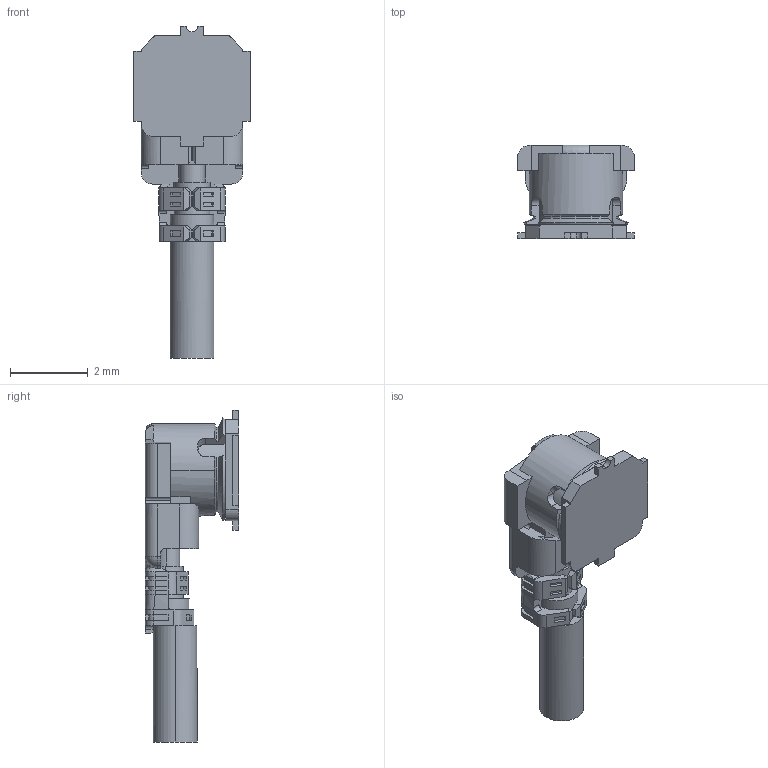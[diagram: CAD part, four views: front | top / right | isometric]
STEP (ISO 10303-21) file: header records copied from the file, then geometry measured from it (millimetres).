
FILE_DESCRIPTION (( 'STEP AP203' ), '1' );
FILE_NAME ('20278-1xxR-13+20441-001E-01C-1.13OD MATING R16R4 STEP ALL.STEP', '2023-11-21T07:01:57', ( '' ), ( '' ), 'SwSTEP 2.0', 'SolidWorks 2023', '' );
FILE_SCHEMA (( 'CONFIG_CONTROL_DESIGN' ));
Length unit declared in the file: millimetre
Products named in the file (1): 20278-1xxR-13+20441-001E-01C-1.13OD MATING R16R4 STEP ALL
Bounding box: 3 x 2.4 x 8.55 mm (x, y, z)
Volume: 21.4 mm3; surface area: 75.2 mm2
Topology: 1 solids, 1 shells, 377 faces, 1040 edges, 670 vertices
Faces by surface type: plane 234, cylinder 87, bspline 35, cone 16, torus 3, sphere 2
Entity records: 13288 total; most frequent: CARTESIAN_POINT 3831, ORIENTED_EDGE 2072, DIRECTION 1803, EDGE_CURVE 1036, LINE 699, VECTOR 699, VERTEX_POINT 670, AXIS2_PLACEMENT_3D 552
